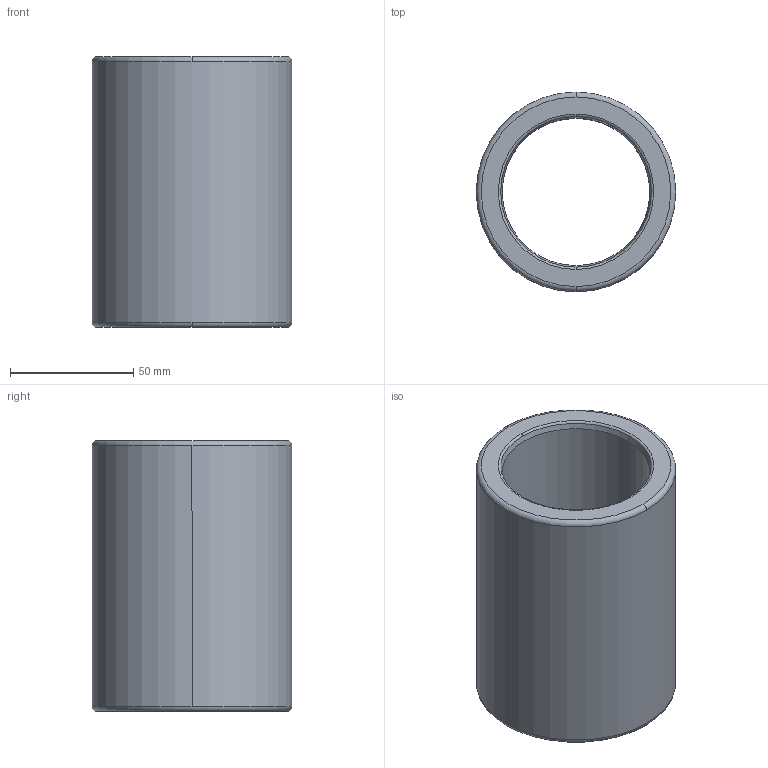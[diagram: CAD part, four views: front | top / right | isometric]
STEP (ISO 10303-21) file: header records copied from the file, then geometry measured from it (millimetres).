
FILE_DESCRIPTION((''),'2;1');
FILE_NAME('B30_048_110.stp','2009-01-12T10:53:27',(''),(''),'Mechanical Desktop 2009','Mechanical Desktop 2009',', , ');
FILE_SCHEMA(('CONFIG_CONTROL_DESIGN'));
Length unit declared in the file: millimetre
Products named in the file (2): Product; blmdl1
Assembly tree (1 placements, depth 2):
  Product
    blmdl1
Bounding box: 80.98 x 80.98 x 110 mm (x, y, z)
Volume: 255058.5 mm3; surface area: 52581.5 mm2
Topology: 1 solids, 1 shells, 18 faces, 48 edges, 32 vertices
Faces by surface type: torus 8, cylinder 4, cone 4, plane 2
Entity records: 705 total; most frequent: DIRECTION 128, CARTESIAN_POINT 100, ORIENTED_EDGE 96, AXIS2_PLACEMENT_3D 60, EDGE_CURVE 48, CIRCLE 40, VERTEX_POINT 32, EDGE_LOOP 20
